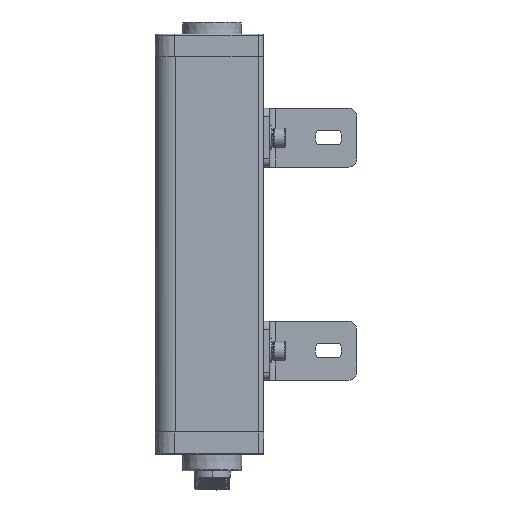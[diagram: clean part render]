
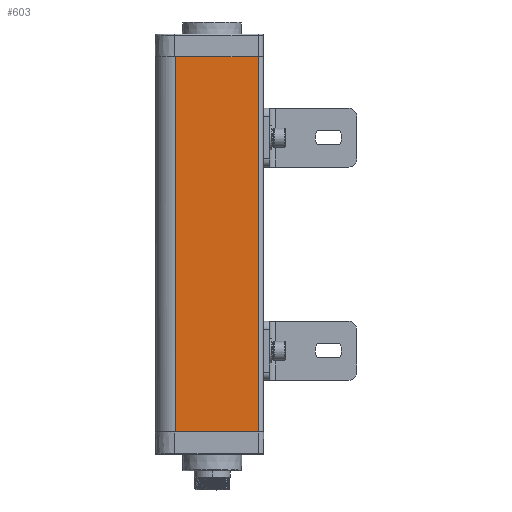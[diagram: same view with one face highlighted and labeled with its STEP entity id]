
A CAD part, left-side view. The second image highlights one B-rep face of the part: STEP entity #603.
In plain terms, the highlighted planar face has unit normal (-1, 0, 0).
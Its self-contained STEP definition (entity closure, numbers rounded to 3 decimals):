
#21=CARTESIAN_POINT('',(-17.5,18.206,0.));
#29=DIRECTION('',(0.,1.,0.));
#30=VECTOR('',#29,41.056);
#31=CARTESIAN_POINT('',(-17.5,-22.85,0.));
#32=LINE('',#31,#30);
#204=DIRECTION('',(0.,0.,1.));
#205=VECTOR('',#204,185.);
#206=CARTESIAN_POINT('',(-17.5,18.206,0.));
#207=LINE('',#206,#205);
#208=DIRECTION('',(0.,1.,0.));
#209=VECTOR('',#208,41.056);
#210=CARTESIAN_POINT('',(-17.5,-22.85,185.));
#211=LINE('',#210,#209);
#212=DIRECTION('',(0.,0.,-1.));
#213=VECTOR('',#212,185.);
#214=CARTESIAN_POINT('',(-17.5,-22.85,185.));
#215=LINE('',#214,#213);
#337=CARTESIAN_POINT('',(-17.5,-22.85,0.));
#339=VERTEX_POINT('',#337);
#350=VERTEX_POINT('',#21);
#399=CARTESIAN_POINT('',(-17.5,18.206,185.));
#400=VERTEX_POINT('',#399);
#405=CARTESIAN_POINT('',(-17.5,-22.85,185.));
#406=VERTEX_POINT('',#405);
#591=CARTESIAN_POINT('',(-17.5,18.206,1750.));
#592=DIRECTION('',(1.,0.,0.));
#593=DIRECTION('',(0.,0.,-1.));
#594=AXIS2_PLACEMENT_3D('',#591,#592,#593);
#595=PLANE('',#594);
#596=ORIENTED_EDGE('',*,*,#428,.T.);
#597=ORIENTED_EDGE('',*,*,#586,.T.);
#598=ORIENTED_EDGE('',*,*,#543,.F.);
#600=ORIENTED_EDGE('',*,*,#599,.T.);
#601=EDGE_LOOP('',(#596,#597,#598,#600));
#602=FACE_OUTER_BOUND('',#601,.F.);
#603=ADVANCED_FACE('',(#602),#595,.F.);
#428=EDGE_CURVE('',#339,#350,#32,.T.);
#543=EDGE_CURVE('',#406,#400,#211,.T.);
#586=EDGE_CURVE('',#350,#400,#207,.T.);
#599=EDGE_CURVE('',#406,#339,#215,.T.);
